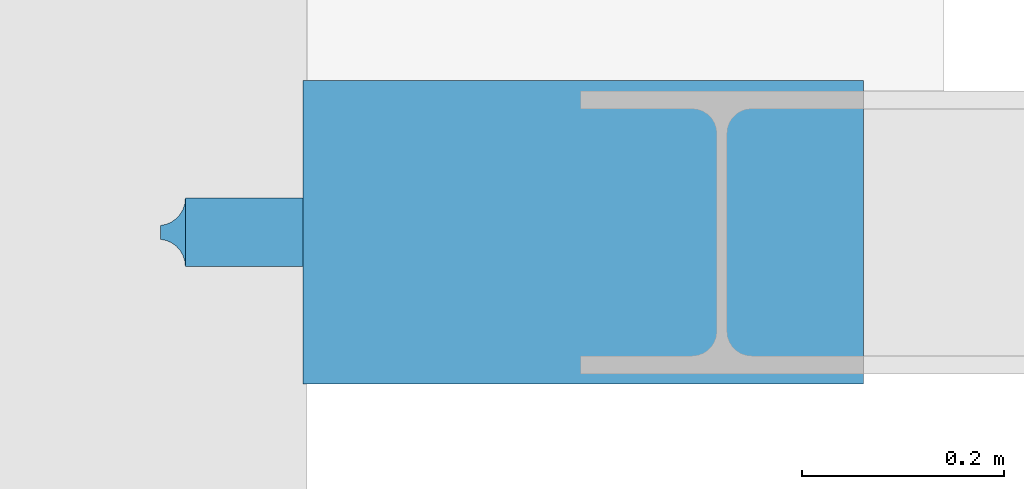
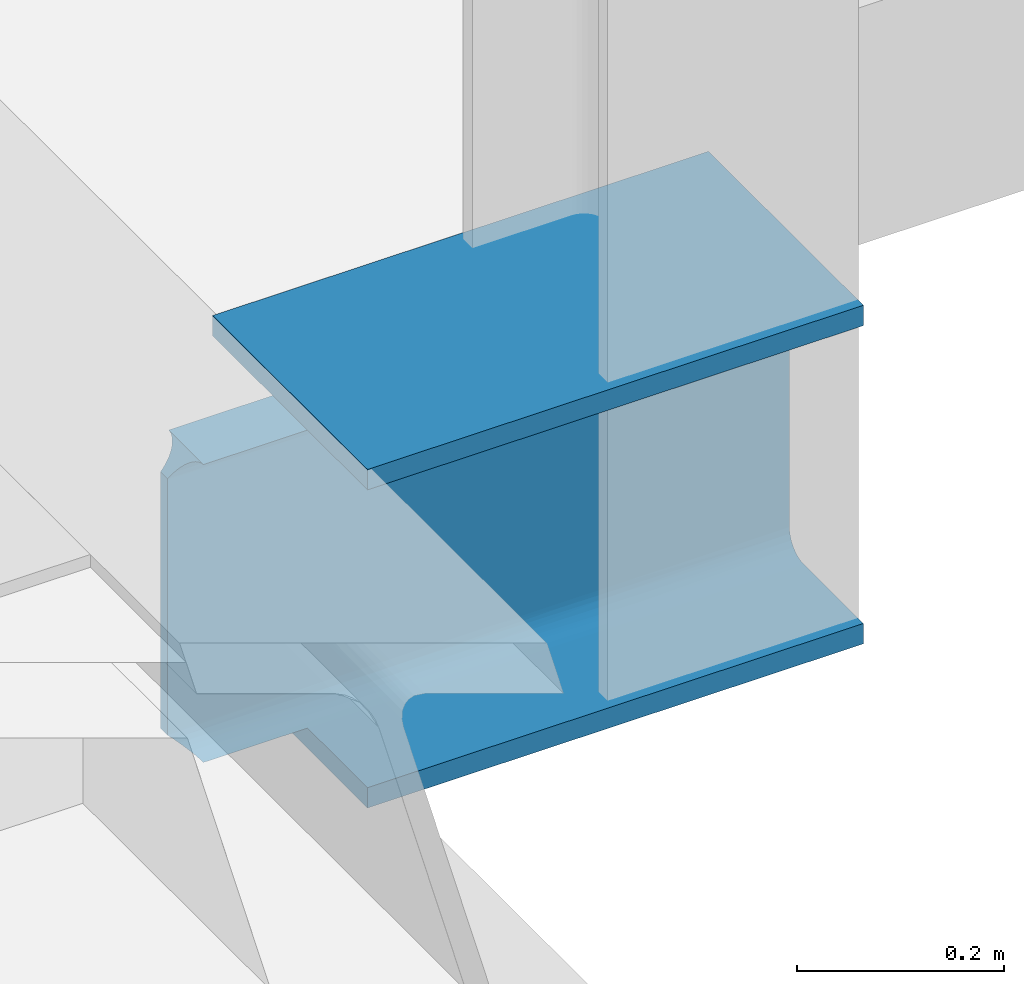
# One storey, part 34 of 38: 1 beam.
"""IFC2X3 building model written with IfcOpenShell, lengths in millimetres."""

from ifc_helpers import new_model, entity, si_unit, converted_unit, derived_unit, direction, frame, origin, place, context, subcontext, project, spatial, faceted_brep, material, type_object, element, save


model = new_model("IFC2X3")

# Units and contexts
model_context = context("Model", 3, precision=0.01, world=origin(), true_north=direction((6.12303176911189e-17, 1.0)))
body_context = subcontext(model_context, "Body", "Model", "MODEL_VIEW")
ifc_project = project(units=[si_unit("LENGTHUNIT", "METRE", prefix="MILLI"), si_unit("AREAUNIT", "SQUARE_METRE", prefix="MILLI"), si_unit("VOLUMEUNIT", "CUBIC_METRE"), converted_unit("PLANEANGLEUNIT", "DEGREE", entity("IfcRatioMeasure", 0.0174532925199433), si_unit("PLANEANGLEUNIT", "RADIAN"), dimensions=[0, 0, 0, 0, 0, 0, 0]), si_unit("MASSUNIT", "GRAM", prefix="KILO"), derived_unit("MASSDENSITYUNIT", [(si_unit("MASSUNIT", "GRAM", prefix="KILO"), 1), (si_unit("LENGTHUNIT", "METRE"), -3)]), derived_unit("MOMENTOFINERTIAUNIT", [(si_unit("LENGTHUNIT", "METRE"), 4)]), si_unit("TIMEUNIT", "SECOND"), si_unit("FREQUENCYUNIT", "HERTZ"), si_unit("THERMODYNAMICTEMPERATUREUNIT", "DEGREE_CELSIUS"), derived_unit("THERMALTRANSMITTANCEUNIT", [(si_unit("MASSUNIT", "GRAM", prefix="KILO"), 1), (si_unit("THERMODYNAMICTEMPERATUREUNIT", "KELVIN"), -1), (si_unit("TIMEUNIT", "SECOND"), -3)]), derived_unit("VOLUMETRICFLOWRATEUNIT", [(si_unit("LENGTHUNIT", "METRE"), 3), (si_unit("TIMEUNIT", "SECOND"), -1)]), si_unit("ELECTRICCURRENTUNIT", "AMPERE"), si_unit("ELECTRICVOLTAGEUNIT", "VOLT"), si_unit("POWERUNIT", "WATT"), si_unit("FORCEUNIT", "NEWTON", prefix="KILO"), si_unit("ILLUMINANCEUNIT", "LUX"), si_unit("LUMINOUSFLUXUNIT", "LUMEN"), si_unit("LUMINOUSINTENSITYUNIT", "CANDELA"), derived_unit("USERDEFINED", [(si_unit("MASSUNIT", "GRAM", prefix="KILO"), -1), (si_unit("LENGTHUNIT", "METRE"), -2), (si_unit("TIMEUNIT", "SECOND"), 3), (si_unit("LUMINOUSFLUXUNIT", "LUMEN"), 1)]), derived_unit("LINEARVELOCITYUNIT", [(si_unit("LENGTHUNIT", "METRE"), 1), (si_unit("TIMEUNIT", "SECOND"), -1)]), si_unit("PRESSUREUNIT", "PASCAL"), derived_unit("USERDEFINED", [(si_unit("LENGTHUNIT", "METRE"), -2), (si_unit("MASSUNIT", "GRAM", prefix="KILO"), 1), (si_unit("TIMEUNIT", "SECOND"), -2)]), derived_unit("LINEARFORCEUNIT", [(si_unit("MASSUNIT", "GRAM", prefix="KILO"), 1), (si_unit("LENGTHUNIT", "METRE"), 1), (si_unit("TIMEUNIT", "SECOND"), -2), (si_unit("LENGTHUNIT", "METRE"), -1)]), derived_unit("PLANARFORCEUNIT", [(si_unit("MASSUNIT", "GRAM", prefix="KILO"), 1), (si_unit("LENGTHUNIT", "METRE"), 1), (si_unit("TIMEUNIT", "SECOND"), -2), (si_unit("LENGTHUNIT", "METRE"), -2)])], contexts=[model_context])

# Site, building, storey
site_placement = place(None, origin())
site = spatial("IfcSite", under=ifc_project, at=site_placement, Name="Theater aan de Parade", CompositionType="ELEMENT")
building_placement = place(site_placement, origin())
building = spatial("IfcBuilding", under=site, at=building_placement, Name="Theater aan de Parade", CompositionType="ELEMENT")
storey_placement = place(building_placement, frame((0.0, 0.0, 12480.0)))
storey = spatial("IfcBuildingStorey", under=building, at=storey_placement, Name="03 derde verdieping", CompositionType="ELEMENT", Elevation=12480.0)

# Beam
ifc_material = material(Name="00_PBT_MAT_staal_S355")
beam_type = type_object("IfcBeamType", Name="28_PBT_SF_staal_H-profiel (void):S355_HE400B", PredefinedType="NOTDEFINED")
beam_placement = place(storey_placement, frame((51882.9735144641, 12805.0, -725.0), z_axis=(0.0, 0.0, 1.0), x_axis=(-1.0, 0.0, 0.0)))
element("IfcBeam", 1, at=beam_placement, inside=storey, type_object=beam_type, material=ifc_material, Name="28_PBT_SF_staal_H-profiel (void):S355_HE400B", ObjectType="28_PBT_SF_staal_H-profiel (void):S355_HE400B", context=body_context, shape_type="Brep", body=[
    faceted_brep([(-26.0816452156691, -116.250000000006, 376.0), (-25.4823825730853, -121.906948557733, 375.400737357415), (-142.331645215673, -116.250000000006, 376.0), (-1.59527223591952, -143.220527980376, 350.261198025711), (-1.59527223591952, -143.250000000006, 349.0), (-183.029734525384, -143.250000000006, 349.0), (-20.8467075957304, -132.227548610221, 370.765062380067), (-17.016072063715, -136.433070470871, 366.934426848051), (-212.173579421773, -134.546799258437, 368.855153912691), (-273.746701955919, -142.029152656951, 357.027159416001), (-7.17186302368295, -142.00943275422, 357.090217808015), (-1.59527223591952, -143.132739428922, 351.513627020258), (-217.97858584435, -124.725386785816, 374.635284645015), (-23.7111958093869, -127.312786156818, 373.629550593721), (-172.207887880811, -129.922025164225, 372.282519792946), (-696.595272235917, -123.238114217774, 375.079997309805), (-515.160996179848, -116.250000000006, 376.0), (-449.770017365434, -123.29007041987, 375.066020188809), (-364.464196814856, -143.250000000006, 349.0), (-439.812415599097, -142.754799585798, 354.147387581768), (-176.38329315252, -138.492060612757, 364.306558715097), (-12.389330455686, -139.742669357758, 362.307685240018), (-353.845005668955, -138.401289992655, 364.437627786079), (-333.72672012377, -116.250000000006, 376.0), (-344.464401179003, -130.013935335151, 372.228303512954), (-542.556588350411, -127.793268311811, 373.408051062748), (-522.968188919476, -132.686558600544, 370.420540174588), (-696.595272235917, -129.750000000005, 372.38268590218), (-538.496277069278, -137.670540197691, 365.436558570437), (-374.708679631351, -134.460117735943, 368.934683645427), (-696.595272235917, -142.32999730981, 355.988114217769), (-499.166073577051, -141.194747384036, 359.332452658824), (-696.595272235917, -139.632685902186, 362.5), (-696.595272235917, -135.341883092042, 368.091883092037), (-515.161573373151, -143.250000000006, 349.0), (-696.595272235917, -143.250000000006, 349.0), (-696.595272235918, -116.250000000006, 376.0), (-1.59527223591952, -143.250000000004, 51.0), (-183.029258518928, -143.250000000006, 51.0), (-364.463918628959, -143.250000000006, 51.0), (-515.1612859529, -143.250000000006, 51.0), (-696.595272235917, -143.250000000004, 51.0), (-7.17186302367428, -142.009432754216, 42.9097821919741), (-12.3893304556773, -139.742669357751, 37.6923147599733), (-273.74670166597, -142.029152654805, 42.9728405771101), (-522.968188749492, -132.6865585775, 29.5794598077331), (-696.595272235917, -135.341883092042, 31.908116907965), (-538.49627681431, -137.670540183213, 34.5634414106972), (-176.383293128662, -138.492060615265, 35.6934412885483), (-25.482382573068, -121.906948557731, 24.5992626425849), (-217.978585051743, -124.725386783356, 25.3647153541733), (-23.7111958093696, -127.312786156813, 26.3704494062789), (-353.845005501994, -138.401289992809, 35.5623722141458), (-499.166074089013, -141.194747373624, 40.6675473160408), (-1.59527223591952, -143.132739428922, 48.4863729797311), (-212.17357898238, -134.546799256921, 31.1448460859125), (-17.0160720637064, -136.433070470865, 33.0655731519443), (-696.595272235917, -139.632685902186, 37.5000000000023), (-696.595272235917, -142.32999730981, 44.0118857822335), (-439.812415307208, -142.754799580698, 45.8526123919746), (-374.708679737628, -134.460117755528, 31.0653163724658), (-344.464400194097, -130.013935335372, 27.7716964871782), (-173.996168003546, -129.922963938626, 27.7180315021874), (-449.770014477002, -123.290070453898, 24.9339798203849), (-515.160625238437, -116.250000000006, 24.0), (-696.595272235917, -123.238114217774, 24.9200026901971), (-20.8467075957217, -132.227548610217, 29.2349376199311), (-1.59527223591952, -143.220527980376, 49.7388019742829), (-26.0816452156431, -116.250000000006, 24.0), (-142.331645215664, -116.250000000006, 24.0), (-542.556588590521, -127.793268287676, 26.5919489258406), (-696.595272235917, -129.750000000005, 27.6173140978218), (-696.595272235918, -116.250000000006, 24.0), (-333.725978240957, -116.250000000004, 24.0), (-142.331645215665, 0.0, 24.0), (-696.595272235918, 0.0, 24.0), (-696.595272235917, -300.0, 24.0), (-142.331645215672, -300.0, 24.0), (-142.331645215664, -183.750000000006, 24.0), (-333.726225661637, -183.750000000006, 24.0), (-515.161912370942, -183.750000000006, 24.0), (-696.595272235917, -183.750000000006, 24.0), (-142.331645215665, 0.0, 0.0), (-696.595272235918, 0.0, 0.0), (-696.595272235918, 0.0, 400.0), (-142.331645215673, 0.0, 400.0), (-142.331645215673, 0.0, 376.0), (-696.595272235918, 0.0, 376.0), (-142.331645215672, -300.0, 0.0), (-696.595272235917, -300.0, 0.0), (-696.595272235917, -300.0, 376.0), (-142.331645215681, -300.0, 376.0), (-142.331645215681, -300.0, 400.0), (-696.595272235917, -300.0, 400.0), (-26.0816452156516, -183.750000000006, 24.0), (-25.4823825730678, -178.093051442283, 24.5992626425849), (-1.59527223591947, -156.779472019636, 49.7388019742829), (-1.59527223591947, -156.750000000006, 51.0), (-183.029558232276, -156.750000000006, 51.0), (-20.8467075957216, -167.772451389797, 29.2349376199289), (-17.0160720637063, -163.566929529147, 33.0655731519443), (-212.173578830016, -165.453200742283, 31.1448460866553), (-273.746701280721, -157.970847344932, 42.9728405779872), (-7.17186302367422, -157.990567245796, 42.909782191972), (-1.59527223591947, -156.86726057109, 48.4863729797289), (-217.978585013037, -175.274613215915, 25.3647153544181), (-23.7111958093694, -172.687213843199, 26.3704494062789), (-172.207887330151, -170.077974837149, 27.7174802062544), (-696.595272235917, -176.761885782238, 24.9200026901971), (-449.770014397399, -176.709929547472, 24.9339798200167), (-364.463844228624, -156.750000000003, 51.0), (-439.812415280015, -157.245200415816, 45.8526124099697), (-176.383293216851, -161.507939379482, 35.6934412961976), (-12.3893304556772, -160.257330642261, 37.6923147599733), (-353.845005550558, -161.598710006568, 35.5623722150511), (-344.464400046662, -169.986064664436, 27.7716964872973), (-542.556588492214, -172.206731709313, 26.59194892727), (-522.968188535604, -167.313441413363, 29.5794598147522), (-696.595272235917, -170.250000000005, 27.6173140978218), (-538.496276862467, -162.329459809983, 34.5634414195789), (-374.708679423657, -165.539882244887, 31.0653163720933), (-696.595272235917, -157.670002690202, 44.0118857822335), (-499.166073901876, -158.805252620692, 40.6675473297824), (-696.595272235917, -160.367314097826, 37.5000000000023), (-696.595272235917, -164.658116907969, 31.908116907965), (-515.160986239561, -156.750000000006, 51.0), (-696.595272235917, -156.750000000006, 51.0), (-1.59527223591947, -156.750000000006, 349.0), (-183.029558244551, -156.750000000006, 349.0), (-364.463844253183, -156.750000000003, 349.0), (-515.160986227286, -156.750000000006, 349.0), (-696.595272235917, -156.750000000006, 349.0), (-7.17186302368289, -157.990567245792, 357.090217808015), (-12.3893304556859, -160.257330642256, 362.30768524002), (-273.746701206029, -157.97084734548, 357.027159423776), (-522.968188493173, -167.313441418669, 370.420540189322), (-696.595272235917, -164.658116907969, 368.091883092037), (-538.49627680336, -162.329459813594, 365.436558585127), (-176.38329321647, -161.507939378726, 364.306558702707), (-25.4823825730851, -178.093051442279, 375.400737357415), (-217.978584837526, -175.274613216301, 374.635284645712), (-23.7111958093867, -172.687213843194, 373.629550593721), (-353.845005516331, -161.598710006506, 364.437627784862), (-499.166074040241, -158.805252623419, 359.332452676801), (-1.59527223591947, -156.86726057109, 351.513627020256), (-212.173578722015, -165.453200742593, 368.855153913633), (-17.0160720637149, -163.56692952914, 366.934426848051), (-696.595272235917, -160.367314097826, 362.5), (-696.595272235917, -157.670002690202, 355.988114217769), (-439.812415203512, -157.245200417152, 354.147387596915), (-374.70867944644, -165.539882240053, 368.934683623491), (-344.464399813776, -169.986064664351, 372.228303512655), (-173.996167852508, -170.077036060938, 372.281968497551), (-449.770013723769, -176.709929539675, 375.06602017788), (-515.160986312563, -183.750000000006, 376.0), (-696.595272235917, -176.761885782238, 375.079997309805), (-20.8467075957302, -167.772451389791, 370.765062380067), (-1.59527223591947, -156.779472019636, 350.261198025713), (-26.0816452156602, -183.750000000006, 376.0), (-142.331645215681, -183.750000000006, 376.0), (-542.556588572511, -172.206731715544, 373.40805107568), (-696.595272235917, -170.250000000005, 372.38268590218), (-696.595272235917, -183.750000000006, 376.0), (-333.72670038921, -183.750000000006, 376.0)], [[[0, 1, 2]], [[3, 4, 5]], [[6, 7, 8]], [[9, 10, 5]], [[11, 5, 10]], [[12, 13, 14]], [[1, 13, 12]], [[15, 16, 17]], [[9, 18, 19]], [[2, 1, 12]], [[20, 7, 21]], [[22, 20, 9]], [[8, 14, 6]], [[23, 12, 17]], [[24, 12, 14]], [[25, 26, 27]], [[11, 3, 5]], [[28, 26, 29]], [[19, 30, 31]], [[22, 9, 31]], [[31, 32, 28]], [[26, 33, 27]], [[8, 20, 22]], [[21, 10, 9]], [[5, 18, 9]], [[2, 12, 23]], [[30, 32, 31]], [[33, 28, 32]], [[17, 12, 24]], [[24, 26, 25]], [[25, 15, 17]], [[30, 19, 34]], [[24, 29, 26]], [[24, 8, 29]], [[34, 19, 18]], [[34, 35, 30]], [[9, 19, 31]], [[26, 28, 33]], [[31, 28, 22]], [[15, 25, 27]], [[24, 25, 17]], [[6, 14, 13]], [[24, 14, 8]], [[7, 20, 8]], [[9, 20, 21]], [[8, 22, 29]], [[28, 29, 22]], [[16, 15, 36]], [[16, 23, 17]], [[37, 38, 39, 40, 41, 35, 34, 18, 5, 4]], [[42, 43, 44]], [[45, 46, 47]], [[48, 44, 43]], [[49, 50, 51]], [[44, 52, 53]], [[44, 39, 38]], [[52, 47, 53]], [[54, 42, 38]], [[55, 48, 56]], [[57, 58, 53]], [[47, 46, 57]], [[58, 41, 40]], [[44, 59, 39]], [[60, 61, 45]], [[61, 55, 62]], [[63, 64, 65]], [[56, 66, 55]], [[54, 38, 67]], [[49, 68, 69]], [[62, 66, 51]], [[38, 37, 67]], [[42, 44, 38]], [[69, 50, 49]], [[55, 61, 60]], [[50, 63, 61]], [[70, 71, 45]], [[46, 45, 71]], [[64, 72, 65]], [[50, 69, 73]], [[63, 50, 73]], [[70, 65, 71]], [[62, 50, 61]], [[40, 39, 59]], [[48, 55, 52]], [[70, 61, 63]], [[59, 44, 53]], [[40, 59, 58]], [[58, 59, 53]], [[53, 47, 57]], [[47, 52, 60]], [[61, 70, 45]], [[65, 70, 63]], [[66, 62, 55]], [[51, 50, 62]], [[44, 48, 52]], [[56, 48, 43]], [[47, 60, 45]], [[52, 55, 60]], [[63, 73, 64]], [[74, 75, 72, 64, 73, 69]], [[76, 77, 78, 79, 80, 81]], [[75, 74, 82, 83]], [[84, 85, 86, 87]], [[83, 82, 88, 89]], [[89, 88, 77, 76]], [[90, 91, 92, 93]], [[94, 95, 78]], [[96, 97, 98]], [[99, 100, 101]], [[102, 103, 98]], [[104, 98, 103]], [[105, 106, 107]], [[95, 106, 105]], [[108, 80, 109]], [[102, 110, 111]], [[78, 95, 105]], [[112, 100, 113]], [[114, 112, 102]], [[101, 107, 99]], [[79, 105, 109]], [[115, 105, 107]], [[116, 117, 118]], [[104, 96, 98]], [[119, 117, 120]], [[111, 121, 122]], [[114, 102, 122]], [[122, 123, 119]], [[117, 124, 118]], [[101, 112, 114]], [[113, 103, 102]], [[98, 110, 102]], [[78, 105, 79]], [[121, 123, 122]], [[124, 119, 123]], [[109, 105, 115]], [[115, 117, 116]], [[116, 108, 109]], [[121, 111, 125]], [[115, 120, 117]], [[115, 101, 120]], [[125, 111, 110]], [[125, 126, 121]], [[102, 111, 122]], [[117, 119, 124]], [[122, 119, 114]], [[108, 116, 118]], [[115, 116, 109]], [[99, 107, 106]], [[115, 107, 101]], [[100, 112, 101]], [[102, 112, 113]], [[101, 114, 120]], [[119, 120, 114]], [[80, 108, 81]], [[80, 79, 109]], [[127, 128, 129, 130, 131, 126, 125, 110, 98, 97]], [[132, 133, 134]], [[135, 136, 137]], [[138, 134, 133]], [[139, 140, 141]], [[134, 142, 143]], [[134, 129, 128]], [[142, 137, 143]], [[144, 132, 128]], [[145, 138, 146]], [[147, 148, 143]], [[137, 136, 147]], [[148, 131, 130]], [[134, 149, 129]], [[150, 151, 135]], [[151, 145, 152]], [[153, 154, 155]], [[146, 156, 145]], [[144, 128, 157]], [[139, 158, 159]], [[152, 156, 141]], [[128, 127, 157]], [[132, 134, 128]], [[159, 140, 139]], [[145, 151, 150]], [[140, 153, 151]], [[160, 161, 135]], [[136, 135, 161]], [[154, 162, 155]], [[140, 159, 163]], [[153, 140, 163]], [[160, 155, 161]], [[152, 140, 151]], [[130, 129, 149]], [[138, 145, 142]], [[160, 151, 153]], [[149, 134, 143]], [[130, 149, 148]], [[148, 149, 143]], [[143, 137, 147]], [[137, 142, 150]], [[151, 160, 135]], [[155, 160, 153]], [[156, 152, 145]], [[141, 140, 152]], [[134, 138, 142]], [[146, 138, 133]], [[137, 150, 135]], [[142, 145, 150]], [[153, 163, 154]], [[91, 90, 162, 154, 163, 159]], [[87, 86, 2, 23, 16, 36]], [[93, 92, 85, 84]], [[67, 37, 4, 3, 11, 144, 157, 127, 97, 96, 104, 54]], [[72, 75, 83, 89, 76, 81, 108, 118, 124, 123, 121, 126, 131, 148, 147, 136, 161, 155, 162, 90, 93, 84, 87, 36, 15, 27, 33, 32, 30, 35, 41, 58, 57, 46, 71, 65]], [[2, 159, 158, 0]], [[1, 0, 158, 139, 141, 156, 146, 133, 132, 144, 11, 10, 21, 7, 6, 13]], [[56, 43, 42, 54, 104, 103, 113, 100, 99, 106, 95, 94, 68, 49, 51, 66]], [[69, 68, 94, 78]], [[78, 77, 88, 82, 74, 69]], [[159, 2, 86, 85, 92, 91]]]),
])

save(model, "model.ifc")
